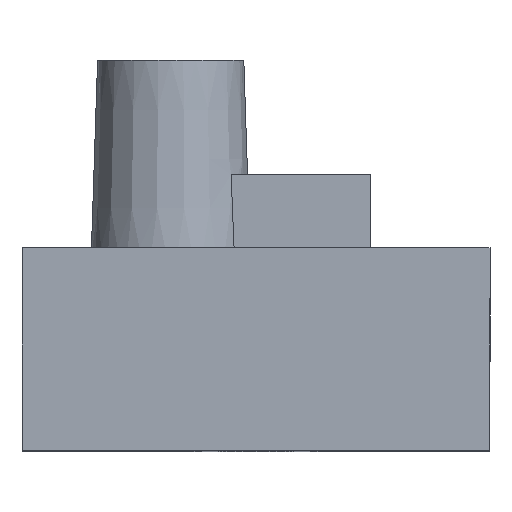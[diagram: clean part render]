
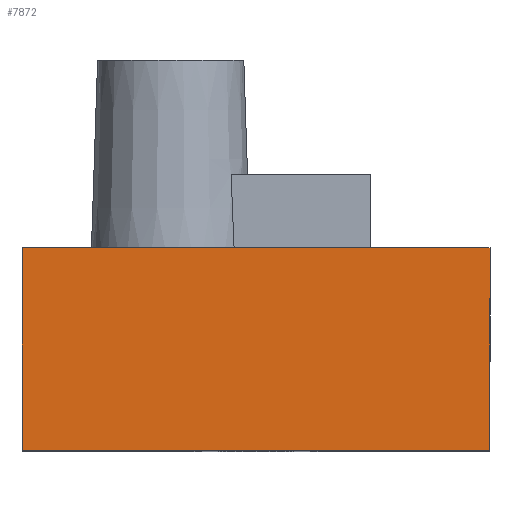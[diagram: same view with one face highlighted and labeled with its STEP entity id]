
A CAD part, top view. The second image highlights one B-rep face of the part: STEP entity #7872.
In plain terms, the highlighted planar face has unit normal (0, 0, 1).
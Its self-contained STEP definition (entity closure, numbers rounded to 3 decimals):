
#456 = EDGE_CURVE ( 'NONE', #3304, #1559, #14492, .T. ) ;
#938 = CARTESIAN_POINT ( 'NONE',  ( -19.2, 0., 0. ) ) ;
#1559 = VERTEX_POINT ( 'NONE', #4372 ) ;
#1680 = VECTOR ( 'NONE', #7928, 1000. ) ;
#1970 = VECTOR ( 'NONE', #9691, 1000. ) ;
#2551 = VERTEX_POINT ( 'NONE', #5884 ) ;
#2613 = AXIS2_PLACEMENT_3D ( 'NONE', #3255, #5770, #8041 ) ;
#3222 = EDGE_CURVE ( 'NONE', #13613, #3304, #3450, .T. ) ;
#3255 = CARTESIAN_POINT ( 'NONE',  ( -19.747, -109.3, 0. ) ) ;
#3304 = VERTEX_POINT ( 'NONE', #12273 ) ;
#3450 = LINE ( 'NONE', #8493, #1970 ) ;
#3509 = LINE ( 'NONE', #11911, #4992 ) ;
#4372 = CARTESIAN_POINT ( 'NONE',  ( -19.2, 0., 0. ) ) ;
#4419 = PLANE ( 'NONE',  #2613 ) ;
#4577 = LINE ( 'NONE', #6896, #13569 ) ;
#4992 = VECTOR ( 'NONE', #10695, 1000. ) ;
#5157 = ORIENTED_EDGE ( 'NONE', *, *, #456, .T. ) ;
#5770 = DIRECTION ( 'NONE',  ( 0., 0., -1. ) ) ;
#5884 = CARTESIAN_POINT ( 'NONE',  ( 0., 0., 0. ) ) ;
#6128 = ORIENTED_EDGE ( 'NONE', *, *, #8695, .T. ) ;
#6225 = CARTESIAN_POINT ( 'NONE',  ( 0., 8.3, 0. ) ) ;
#6896 = CARTESIAN_POINT ( 'NONE',  ( 0., 0., 0. ) ) ;
#7872 = ADVANCED_FACE ( 'NONE', ( #11413 ), #4419, .F. ) ;
#7928 = DIRECTION ( 'NONE',  ( 0., -1., 0. ) ) ;
#8041 = DIRECTION ( 'NONE',  ( -1., 0., 0. ) ) ;
#8083 = DIRECTION ( 'NONE',  ( 1., 0., 0. ) ) ;
#8493 = CARTESIAN_POINT ( 'NONE',  ( -19.2, 8.3, 0. ) ) ;
#8695 = EDGE_CURVE ( 'NONE', #2551, #13613, #3509, .T. ) ;
#9407 = EDGE_CURVE ( 'NONE', #1559, #2551, #4577, .T. ) ;
#9691 = DIRECTION ( 'NONE',  ( -1., 0., 0. ) ) ;
#10695 = DIRECTION ( 'NONE',  ( 0., 1., 0. ) ) ;
#10808 = ORIENTED_EDGE ( 'NONE', *, *, #3222, .T. ) ;
#11413 = FACE_OUTER_BOUND ( 'NONE', #12555, .T. ) ;
#11911 = CARTESIAN_POINT ( 'NONE',  ( 0., 8.3, 0. ) ) ;
#12273 = CARTESIAN_POINT ( 'NONE',  ( -19.2, 8.3, 0. ) ) ;
#12555 = EDGE_LOOP ( 'NONE', ( #14264, #6128, #10808, #5157 ) ) ;
#13569 = VECTOR ( 'NONE', #8083, 1000. ) ;
#13613 = VERTEX_POINT ( 'NONE', #6225 ) ;
#14264 = ORIENTED_EDGE ( 'NONE', *, *, #9407, .T. ) ;
#14492 = LINE ( 'NONE', #938, #1680 ) ;
